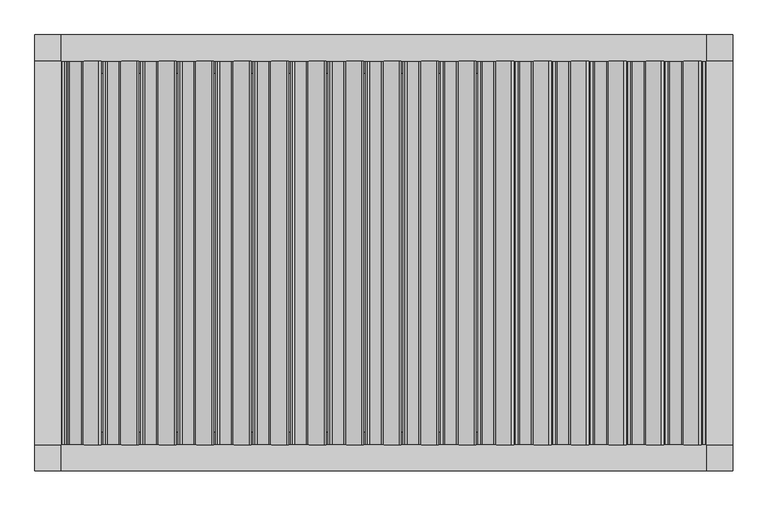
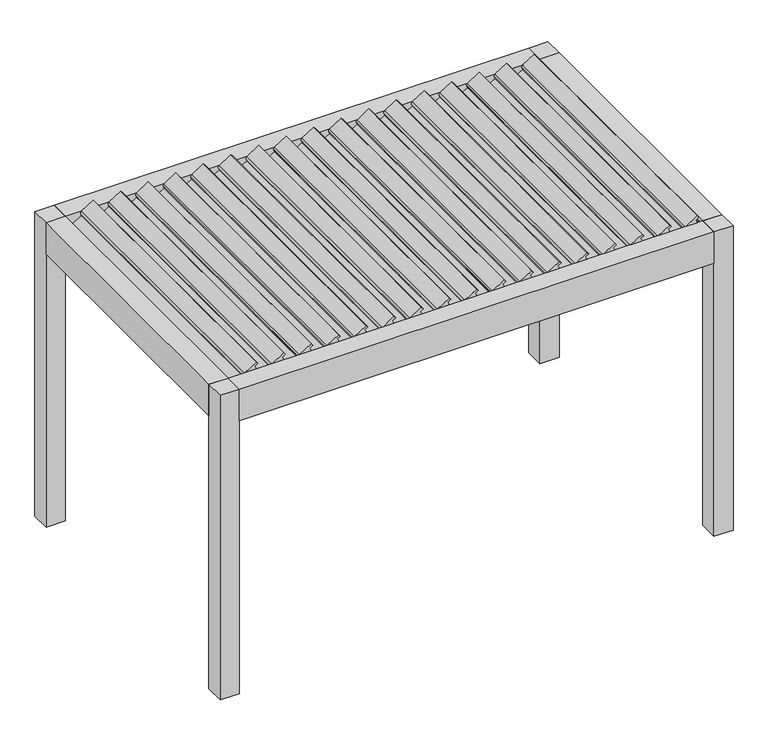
"""IFC4 building model written with IfcOpenShell, lengths in millimetres: proxy geometry, Renson_Camargue_Freestanding_Patio covers : Renson_Camargue_Freestanding_Patio covers."""

from ifc_helpers import new_model, si_unit, point, frame, frame_2d, origin, origin_with_axes, place, context, project, spatial, polyline, circle_curve, trimmed, segment, composite_curve, outline, extrude, source, transform, mapped, element, save


def generic_models_89878907(model_context):
    return source(origin(), model_context, "Body", "SweptSolid", [
        extrude(outline(composite_curve([segment(polyline([(2509.6354765, 1592.4447775), (2534.8015087, 1580.709664), (2550.418628, 1604.9891952), (2565.5823251, 1592.2653426), (2506.0080876, 1499.6468169)]), True, "CONTINUOUS"), segment(trimmed(circle_curve(frame_2d((2493.3925024, 1507.761434)), 15.0), [point((2506.0080876, 1499.6468169))], [point((2488.2622002, 1493.6660447))], False, "CARTESIAN"), True, "CONTINUOUS"), segment(polyline([(2488.2622002, 1493.6660447), (2469.9135617, 1500.3444029), (2426.0456737, 1424.3629921), (2439.3306402, 1413.2155816), (2431.0566607, 1400.3522398), (2405.5876405, 1412.228639), (2509.6354765, 1592.4447775)]), True, "CONTINUOUS")], self_intersect=False)), frame((0.0, -1100.0, 0.0), z_axis=(0.0, 1.0, 0.0), x_axis=(0.0, 0.0, 1.0)), (0.0, 0.0, 1.0), 2200.0),
        extrude(outline(composite_curve([segment(polyline([(2509.6354765, 1377.4339728), (2534.8015087, 1365.6988592), (2550.418628, 1389.9783904), (2565.5823251, 1377.2545378), (2506.0080876, 1284.6360121)]), True, "CONTINUOUS"), segment(trimmed(circle_curve(frame_2d((2493.3925024, 1292.7506292)), 15.0), [point((2506.0080876, 1284.6360121))], [point((2488.2622002, 1278.6552399))], False, "CARTESIAN"), True, "CONTINUOUS"), segment(polyline([(2488.2622002, 1278.6552399), (2469.9135617, 1285.3335981), (2426.0456737, 1209.3521873), (2439.3306402, 1198.2047768), (2431.0566607, 1185.341435), (2405.5876405, 1197.2178342), (2509.6354765, 1377.4339728)]), True, "CONTINUOUS")], self_intersect=False)), frame((0.0, -1100.0, 0.0), z_axis=(0.0, 1.0, 0.0), x_axis=(0.0, 0.0, 1.0)), (0.0, 0.0, 1.0), 2200.0),
        extrude(outline(composite_curve([segment(polyline([(2509.6354765, 1162.423168), (2534.8015087, 1150.6880544), (2550.418628, 1174.9675857), (2565.5823251, 1162.243733), (2506.0080876, 1069.6252074)]), True, "CONTINUOUS"), segment(trimmed(circle_curve(frame_2d((2493.3925024, 1077.7398244)), 15.0), [point((2506.0080876, 1069.6252074))], [point((2488.2622002, 1063.6444351))], False, "CARTESIAN"), True, "CONTINUOUS"), segment(polyline([(2488.2622002, 1063.6444351), (2469.9135617, 1070.3227934), (2426.0456737, 994.3413825), (2439.3306402, 983.193972), (2431.0566607, 970.3306303), (2405.5876405, 982.2070295), (2509.6354765, 1162.423168)]), True, "CONTINUOUS")], self_intersect=False)), frame((0.0, -1100.0, 0.0), z_axis=(0.0, 1.0, 0.0), x_axis=(0.0, 0.0, 1.0)), (0.0, 0.0, 1.0), 2200.0),
        extrude(outline(composite_curve([segment(polyline([(2509.6354765, 947.4123632), (2534.8015087, 935.6772497), (2550.418628, 959.9567809), (2565.5823251, 947.2329282), (2506.0080876, 854.6144026)]), True, "CONTINUOUS"), segment(trimmed(circle_curve(frame_2d((2493.3925024, 862.7290196)), 15.0), [point((2506.0080876, 854.6144026))], [point((2488.2622002, 848.6336303))], False, "CARTESIAN"), True, "CONTINUOUS"), segment(polyline([(2488.2622002, 848.6336303), (2469.9135617, 855.3119886), (2426.0456737, 779.3305777), (2439.3306402, 768.1831673), (2431.0566607, 755.3198255), (2405.5876405, 767.1962247), (2509.6354765, 947.4123632)]), True, "CONTINUOUS")], self_intersect=False)), frame((0.0, -1100.0, 0.0), z_axis=(0.0, 1.0, 0.0), x_axis=(0.0, 0.0, 1.0)), (0.0, 0.0, 1.0), 2200.0),
        extrude(outline(composite_curve([segment(polyline([(2509.6354765, 732.4015584), (2534.8015087, 720.6664449), (2550.418628, 744.9459761), (2565.5823251, 732.2221234), (2506.0080876, 639.6035978)]), True, "CONTINUOUS"), segment(trimmed(circle_curve(frame_2d((2493.3925024, 647.7182149)), 15.0), [point((2506.0080876, 639.6035978))], [point((2488.2622002, 633.6228256))], False, "CARTESIAN"), True, "CONTINUOUS"), segment(polyline([(2488.2622002, 633.6228256), (2469.9135617, 640.3011838), (2426.0456737, 564.3197729), (2439.3306402, 553.1723625), (2431.0566607, 540.3090207), (2405.5876405, 552.1854199), (2509.6354765, 732.4015584)]), True, "CONTINUOUS")], self_intersect=False)), frame((0.0, -1100.0, 0.0), z_axis=(0.0, 1.0, 0.0), x_axis=(0.0, 0.0, 1.0)), (0.0, 0.0, 1.0), 2200.0),
        extrude(outline(composite_curve([segment(polyline([(2509.6354765, 517.3907536), (2534.8015087, 505.6556401), (2550.418628, 529.9351713), (2565.5823251, 517.2113187), (2506.0080876, 424.592793)]), True, "CONTINUOUS"), segment(trimmed(circle_curve(frame_2d((2493.3925024, 432.7074101)), 15.0), [point((2506.0080876, 424.592793))], [point((2488.2622002, 418.6120208))], False, "CARTESIAN"), True, "CONTINUOUS"), segment(polyline([(2488.2622002, 418.6120208), (2469.9135617, 425.290379), (2426.0456737, 349.3089682), (2439.3306402, 338.1615577), (2431.0566607, 325.2982159), (2405.5876405, 337.1746151), (2509.6354765, 517.3907536)]), True, "CONTINUOUS")], self_intersect=False)), frame((0.0, -1100.0, 0.0), z_axis=(0.0, 1.0, 0.0), x_axis=(0.0, 0.0, 1.0)), (0.0, 0.0, 1.0), 2200.0),
        extrude(outline(composite_curve([segment(polyline([(2509.6354765, 302.3799488), (2534.8015087, 290.6448353), (2550.418628, 314.9243665), (2565.5823251, 302.2005139), (2506.0080876, 209.5819882)]), True, "CONTINUOUS"), segment(trimmed(circle_curve(frame_2d((2493.3925024, 217.6966053)), 15.0), [point((2506.0080876, 209.5819882))], [point((2488.2622002, 203.601216))], False, "CARTESIAN"), True, "CONTINUOUS"), segment(polyline([(2488.2622002, 203.601216), (2469.9135617, 210.2795742), (2426.0456737, 134.2981634), (2439.3306402, 123.1507529), (2431.0566607, 110.2874111), (2405.5876405, 122.1638103), (2509.6354765, 302.3799488)]), True, "CONTINUOUS")], self_intersect=False)), frame((0.0, -1100.0, 0.0), z_axis=(0.0, 1.0, 0.0), x_axis=(0.0, 0.0, 1.0)), (0.0, 0.0, 1.0), 2200.0),
        extrude(outline(composite_curve([segment(polyline([(2509.6354765, 87.3691441), (2534.8015087, 75.6340305), (2550.418628, 99.9135617), (2565.5823251, 87.1897091), (2506.0080876, -5.4288166)]), True, "CONTINUOUS"), segment(trimmed(circle_curve(frame_2d((2493.3925024, 2.6858005)), 15.0), [point((2506.0080876, -5.4288166))], [point((2488.2622002, -11.4095888))], False, "CARTESIAN"), True, "CONTINUOUS"), segment(polyline([(2488.2622002, -11.4095888), (2469.9135617, -4.7312306), (2426.0456737, -80.7126414), (2439.3306402, -91.8600519), (2431.0566607, -104.7233936), (2405.5876405, -92.8469944), (2509.6354765, 87.3691441)]), True, "CONTINUOUS")], self_intersect=False)), frame((0.0, -1100.0, 0.0), z_axis=(0.0, 1.0, 0.0), x_axis=(0.0, 0.0, 1.0)), (0.0, 0.0, 1.0), 2200.0),
        extrude(outline(composite_curve([segment(polyline([(2509.6354765, -127.6416607), (2534.8015087, -139.3767743), (2550.418628, -115.097243), (2565.5823251, -127.8210957), (2506.0080876, -220.4396213)]), True, "CONTINUOUS"), segment(trimmed(circle_curve(frame_2d((2493.3925024, -212.3250043)), 15.0), [point((2506.0080876, -220.4396213))], [point((2488.2622002, -226.4203936))], False, "CARTESIAN"), True, "CONTINUOUS"), segment(polyline([(2488.2622002, -226.4203936), (2469.9135617, -219.7420353), (2426.0456737, -295.7234462), (2439.3306402, -306.8708567), (2431.0566607, -319.7341984), (2405.5876405, -307.8577992), (2509.6354765, -127.6416607)]), True, "CONTINUOUS")], self_intersect=False)), frame((0.0, -1100.0, 0.0), z_axis=(0.0, 1.0, 0.0), x_axis=(0.0, 0.0, 1.0)), (0.0, 0.0, 1.0), 2200.0),
        extrude(outline(composite_curve([segment(polyline([(2509.6354765, -342.6524655), (2534.8015087, -354.387579), (2550.418628, -330.1080478), (2565.5823251, -342.8319005), (2506.0080876, -435.4504261)]), True, "CONTINUOUS"), segment(trimmed(circle_curve(frame_2d((2493.3925024, -427.335809)), 15.0), [point((2506.0080876, -435.4504261))], [point((2488.2622002, -441.4311984))], False, "CARTESIAN"), True, "CONTINUOUS"), segment(polyline([(2488.2622002, -441.4311984), (2469.9135617, -434.7528401), (2426.0456737, -510.734251), (2439.3306402, -521.8816614), (2431.0566607, -534.7450032), (2405.5876405, -522.868604), (2509.6354765, -342.6524655)]), True, "CONTINUOUS")], self_intersect=False)), frame((0.0, -1100.0, 0.0), z_axis=(0.0, 1.0, 0.0), x_axis=(0.0, 0.0, 1.0)), (0.0, 0.0, 1.0), 2200.0),
        extrude(outline(composite_curve([segment(polyline([(2509.6354765, -557.6632703), (2534.8015087, -569.3983838), (2550.418628, -545.1188526), (2565.5823251, -557.8427052), (2506.0080876, -650.4612309)]), True, "CONTINUOUS"), segment(trimmed(circle_curve(frame_2d((2493.3925024, -642.3466138)), 15.0), [point((2506.0080876, -650.4612309))], [point((2488.2622002, -656.4420031))], False, "CARTESIAN"), True, "CONTINUOUS"), segment(polyline([(2488.2622002, -656.4420031), (2469.9135617, -649.7636449), (2426.0456737, -725.7450558), (2439.3306402, -736.8924662), (2431.0566607, -749.755808), (2405.5876405, -737.8794088), (2509.6354765, -557.6632703)]), True, "CONTINUOUS")], self_intersect=False)), frame((0.0, -1100.0, 0.0), z_axis=(0.0, 1.0, 0.0), x_axis=(0.0, 0.0, 1.0)), (0.0, 0.0, 1.0), 2200.0),
        extrude(outline(composite_curve([segment(polyline([(2509.6354765, -772.6740751), (2534.8015087, -784.4091886), (2550.418628, -760.1296574), (2565.5823251, -772.85351), (2506.0080876, -865.4720357)]), True, "CONTINUOUS"), segment(trimmed(circle_curve(frame_2d((2493.3925024, -857.3574186)), 15.0), [point((2506.0080876, -865.4720357))], [point((2488.2622002, -871.4528079))], False, "CARTESIAN"), True, "CONTINUOUS"), segment(polyline([(2488.2622002, -871.4528079), (2469.9135617, -864.7744497), (2426.0456737, -940.7558605), (2439.3306402, -951.903271), (2431.0566607, -964.7666128), (2405.5876405, -952.8902136), (2509.6354765, -772.6740751)]), True, "CONTINUOUS")], self_intersect=False)), frame((0.0, -1100.0, 0.0), z_axis=(0.0, 1.0, 0.0), x_axis=(0.0, 0.0, 1.0)), (0.0, 0.0, 1.0), 2200.0),
        extrude(outline(composite_curve([segment(polyline([(2509.6354765, -987.6848798), (2534.8015087, -999.4199934), (2550.418628, -975.1404622), (2565.5823251, -987.8643148), (2506.0080876, -1080.4828405)]), True, "CONTINUOUS"), segment(trimmed(circle_curve(frame_2d((2493.3925024, -1072.3682234)), 15.0), [point((2506.0080876, -1080.4828405))], [point((2488.2622002, -1086.4636127))], False, "CARTESIAN"), True, "CONTINUOUS"), segment(polyline([(2488.2622002, -1086.4636127), (2469.9135617, -1079.7852545), (2426.0456737, -1155.7666653), (2439.3306402, -1166.9140758), (2431.0566607, -1179.7774176), (2405.5876405, -1167.9010183), (2509.6354765, -987.6848798)]), True, "CONTINUOUS")], self_intersect=False)), frame((0.0, -1100.0, 0.0), z_axis=(0.0, 1.0, 0.0), x_axis=(0.0, 0.0, 1.0)), (0.0, 0.0, 1.0), 2200.0),
        extrude(outline(composite_curve([segment(polyline([(2509.6354765, -1202.6956846), (2534.8015087, -1214.4307982), (2550.418628, -1190.1512669), (2565.5823251, -1202.8751196), (2506.0080876, -1295.4936452)]), True, "CONTINUOUS"), segment(trimmed(circle_curve(frame_2d((2493.3925024, -1287.3790282)), 15.0), [point((2506.0080876, -1295.4936452))], [point((2488.2622002, -1301.4744175))], False, "CARTESIAN"), True, "CONTINUOUS"), segment(polyline([(2488.2622002, -1301.4744175), (2469.9135617, -1294.7960592), (2426.0456737, -1370.7774701), (2439.3306402, -1381.9248806), (2431.0566607, -1394.7882223), (2405.5876405, -1382.9118231), (2509.6354765, -1202.6956846)]), True, "CONTINUOUS")], self_intersect=False)), frame((0.0, -1100.0, 0.0), z_axis=(0.0, 1.0, 0.0), x_axis=(0.0, 0.0, 1.0)), (0.0, 0.0, 1.0), 2200.0),
        extrude(outline(composite_curve([segment(polyline([(2509.6354765, -1417.7064894), (2534.8015087, -1429.4416029), (2550.418628, -1405.1620717), (2565.5823251, -1417.8859244), (2506.0080876, -1510.50445)]), True, "CONTINUOUS"), segment(trimmed(circle_curve(frame_2d((2493.3925024, -1502.389833)), 15.0), [point((2506.0080876, -1510.50445))], [point((2488.2622002, -1516.4852223))], False, "CARTESIAN"), True, "CONTINUOUS"), segment(polyline([(2488.2622002, -1516.4852223), (2469.9135617, -1509.806864), (2426.0456737, -1585.7882749), (2439.3306402, -1596.9356853), (2431.0566607, -1609.7990271), (2405.5876405, -1597.9226279), (2509.6354765, -1417.7064894)]), True, "CONTINUOUS")], self_intersect=False)), frame((0.0, -1100.0, 0.0), z_axis=(0.0, 1.0, 0.0), x_axis=(0.0, 0.0, 1.0)), (0.0, 0.0, 1.0), 2200.0),
        extrude(outline(composite_curve([segment(polyline([(2509.6354765, 1807.4555823), (2534.8015087, 1795.7204688), (2550.418628, 1820.0), (2565.5823251, 1807.2761473), (2506.0080876, 1714.6576217)]), True, "CONTINUOUS"), segment(trimmed(circle_curve(frame_2d((2493.3925024, 1722.7722388)), 15.0), [point((2506.0080876, 1714.6576217))], [point((2488.2622002, 1708.6768495))], False, "CARTESIAN"), True, "CONTINUOUS"), segment(polyline([(2488.2622002, 1708.6768495), (2469.9135617, 1715.3552077), (2426.0456737, 1639.3737968), (2439.3306402, 1628.2263864), (2431.0566607, 1615.3630446), (2405.5876405, 1627.2394438), (2509.6354765, 1807.4555823)]), True, "CONTINUOUS")], self_intersect=False)), frame((0.0, -1100.0, 0.0), z_axis=(0.0, 1.0, 0.0), x_axis=(0.0, 0.0, 1.0)), (0.0, 0.0, 1.0), 2200.0),
        extrude(outline(composite_curve([segment(polyline([(2509.6354765, -1632.7172942), (2534.8015087, -1644.4524077), (2550.418628, -1620.1728765), (2565.5823251, -1632.8967292), (2506.0080876, -1725.5152548)]), True, "CONTINUOUS"), segment(trimmed(circle_curve(frame_2d((2493.3925024, -1717.4006377)), 15.0), [point((2506.0080876, -1725.5152548))], [point((2488.2622002, -1731.496027))], False, "CARTESIAN"), True, "CONTINUOUS"), segment(polyline([(2488.2622002, -1731.496027), (2469.9135617, -1724.8176688), (2426.0456737, -1800.7990797), (2439.3306402, -1811.9464901), (2431.0566607, -1824.8098319), (2405.5876405, -1812.9334327), (2509.6354765, -1632.7172942)]), True, "CONTINUOUS")], self_intersect=False)), frame((0.0, -1100.0, 0.0), z_axis=(0.0, 1.0, 0.0), x_axis=(0.0, 0.0, 1.0)), (0.0, 0.0, 1.0), 2200.0),
        extrude(outline(polyline([(2441.6559373, -1850.0), (2441.6559373, -1824.0), (2455.6555802, -1820.2487113), (2455.6555802, -1829.5940945), (2471.400763, -1845.0), (2479.2449277, -1845.0), (2479.6823598, -1850.0), (2441.6559373, -1850.0)])), frame((0.0, -1100.0, 0.0), z_axis=(0.0, 1.0, 0.0), x_axis=(0.0, 0.0, 1.0)), (0.0, 0.0, 1.0), 2200.0),
        extrude(outline(polyline([(-1850.0, -1100.0), (-2000.0, -1100.0), (-2000.0, 1100.0), (-1850.0, 1100.0), (-1850.0, -1100.0)])), frame((0.0, 0.0, 2250.0), z_axis=(0.0, 0.0, 1.0), x_axis=(1.0, 0.0, 0.0)), (0.0, 0.0, 1.0), 260.0),
        extrude(outline(polyline([(2510.0, 2000.0), (2510.0, 1850.0), (2479.6904658, 1850.0), (2479.2449277, 1845.0), (2471.400763, 1845.0), (2455.6555802, 1829.2544156), (2455.6555802, 1819.9090324), (2441.6559373, 1823.6603211), (2441.6559373, 1850.0), (2250.0, 1850.0), (2250.0, 2000.0), (2510.0, 2000.0)])), frame((0.0, -1100.0, 0.0), z_axis=(0.0, 1.0, 0.0), x_axis=(0.0, 0.0, 1.0)), (0.0, 0.0, 1.0), 2200.0),
        extrude(outline(polyline([(-1100.0, 2510.0), (-1100.0, 2322.0), (-1030.0000001, 2322.0), (-1030.0000001, 2250.0), (-1250.0, 2250.0), (-1250.0, 2510.0), (-1100.0, 2510.0)])), frame((-1850.0, 0.0, 0.0), z_axis=(1.0, 0.0, 0.0), x_axis=(0.0, 1.0, 0.0)), (0.0, 0.0, 1.0), 3700.0),
        extrude(outline(polyline([(1250.0, 2250.0), (1030.0000001, 2250.0), (1030.0000001, 2322.0), (1100.0, 2322.0), (1100.0, 2510.0), (1250.0, 2510.0), (1250.0, 2250.0)])), frame((-1850.0, 0.0, 0.0), z_axis=(1.0, 0.0, 0.0), x_axis=(0.0, 1.0, 0.0)), (0.0, 0.0, 1.0), 3700.0),
        extrude(outline(polyline([(-1850.0, 1250.0), (-1850.0, 1100.0), (-2000.0, 1100.0), (-2000.0, 1250.0), (-1850.0, 1250.0)])), origin_with_axes(), (0.0, 0.0, 1.0), 2510.0),
        extrude(outline(polyline([(2000.0, 1250.0), (2000.0, 1100.0), (1850.0, 1100.0), (1850.0, 1250.0), (2000.0, 1250.0)])), origin_with_axes(), (0.0, 0.0, 1.0), 2510.0),
        extrude(outline(polyline([(2000.0, -1100.0), (2000.0, -1250.0), (1850.0, -1250.0), (1850.0, -1100.0), (2000.0, -1100.0)])), origin_with_axes(), (0.0, 0.0, 1.0), 2510.0),
        extrude(outline(polyline([(-1850.0, -1100.0), (-1850.0, -1250.0), (-2000.0, -1250.0), (-2000.0, -1100.0), (-1850.0, -1100.0)])), origin_with_axes(), (0.0, 0.0, 1.0), 2510.0),
    ])


if __name__ == "__main__":
    model = new_model("IFC4")
    model_context = context("Model", 3, world=origin())
    ifc_project = project(units=[si_unit("LENGTHUNIT", "METRE", prefix="MILLI")], contexts=[model_context])
    site = spatial("IfcSite", under=ifc_project)
    building = spatial("IfcBuilding", under=site)
    placement = place(None, origin())
    generic_models_shape = generic_models_89878907(model_context)
    element("IfcBuildingElementProxy", 1, Name="Renson_Camargue_Freestanding_Patio covers : Renson_Camargue_Freestanding_Patio covers", ObjectType="Renson_Camargue_Freestanding_Patio covers : Renson_Camargue_Freestanding_Patio covers", at=placement, inside=building, context=model_context, shape_type="MappedRepresentation", body=[
        mapped(generic_models_shape, transform((0.0, 0.0, 0.0), x_axis=(1.0, 0.0, 0.0), y_axis=(0.0, 1.0, 0.0), z_axis=(0.0, 0.0, 1.0))),
    ])
    save(model, "model.ifc")
